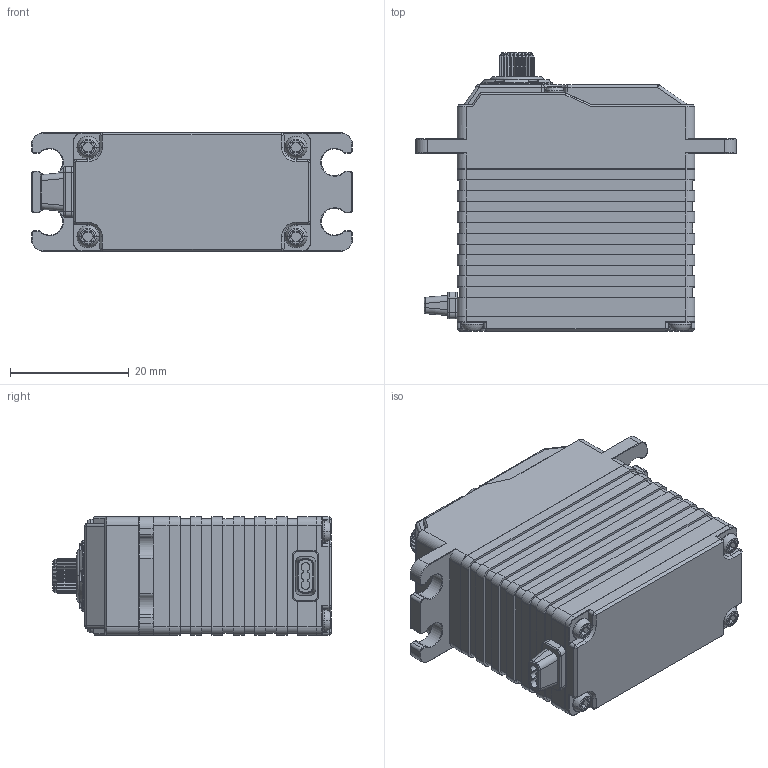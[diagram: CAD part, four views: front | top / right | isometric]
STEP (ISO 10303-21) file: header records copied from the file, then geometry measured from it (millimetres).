
FILE_DESCRIPTION((''),'2;1');
FILE_NAME('RS660BSMW','2025-05-05T',('扂'),(''),'PRO/ENGINEER BY PARAMETRIC TECHNOLOGY CORPORATION, 2010280','PRO/ENGINEER BY PARAMETRIC TECHNOLOGY CORPORATION, 2010280','');
FILE_SCHEMA(('CONFIG_CONTROL_DESIGN'));
Length unit declared in the file: millimetre
Products named in the file (1): DDJ-STDCAR6-A86-AGF
Bounding box: 54 x 46.9 x 20 mm (x, y, z)
Volume: 32713.1 mm3; surface area: 7953.9 mm2
Topology: 1 solids, 1 shells, 855 faces, 2157 edges, 1320 vertices
Faces by surface type: plane 327, cylinder 324, cone 88, torus 80, sphere 20, bspline 16
Entity records: 28888 total; most frequent: CARTESIAN_POINT 8282, DIRECTION 4419, ORIENTED_EDGE 4280, EDGE_CURVE 2140, AXIS2_PLACEMENT_3D 1644, VERTEX_POINT 1320, VECTOR 1131, LINE 1131
